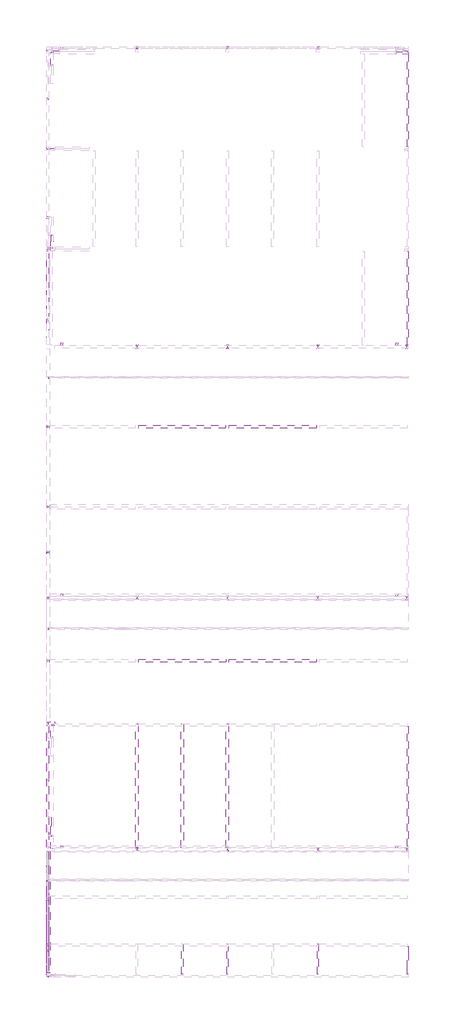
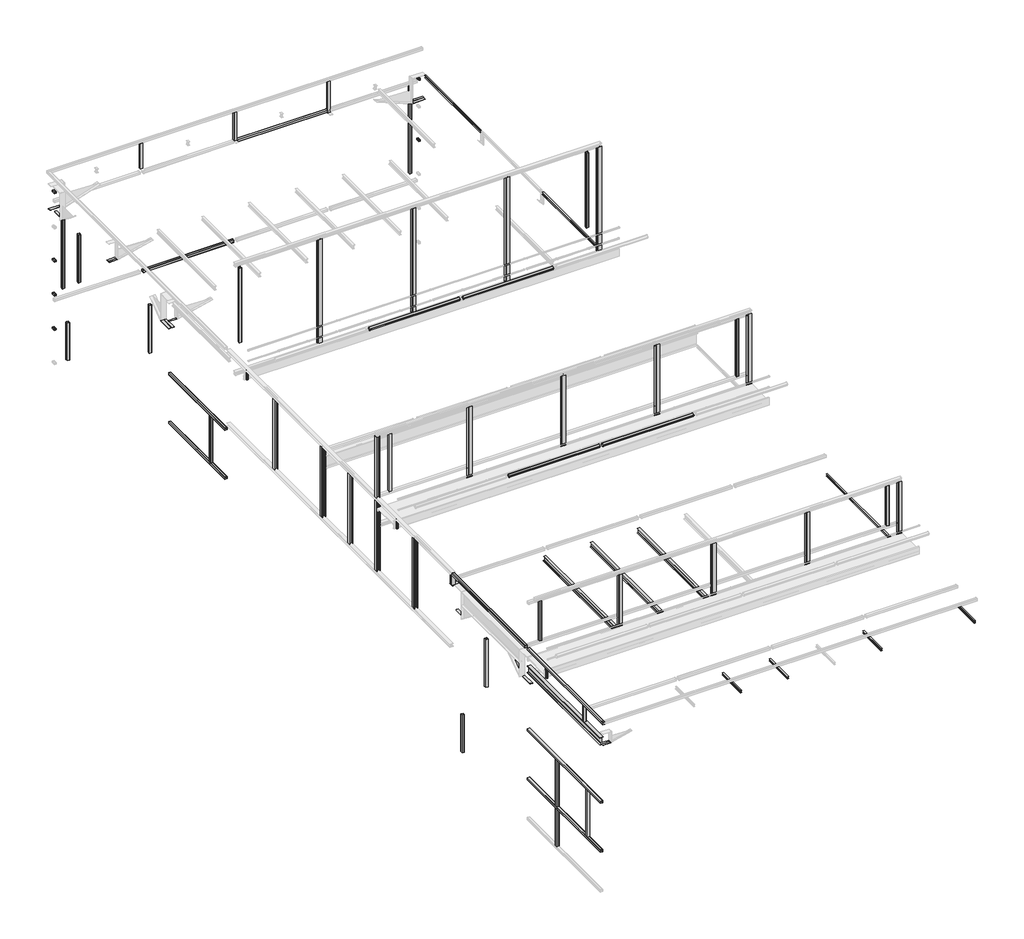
# One storey, part 1 of 3: 87 beams.
"""IFC4 building model written with IfcOpenShell, lengths in millimetres."""

from ifc_helpers import new_model, si_unit, origin, place, context, project, spatial, transform, mapped, element, save
from components import beam_d4a0480b, beam_3418ffec, beam_4ca940d6, beam_4316e584, beam_625af16d, beam_d5b4886c, beam_2f515bfb, beam_35b06b7e, beam_455ae0a9, beam_72802500, beam_2bc91c63, beam_9335a4f9, beam_03e1d0e3, beam_81fba2e1, beam_72d9c7e8, beam_f9063047, beam_884fce26, beam_35ba4fe3, beam_1d88e502, beam_e98fb987, beam_e52d324f, beam_d645ffe5, beam_266f3cda, beam_3a8f4c1c, beam_8f998c1d, beam_f69429bc, beam_959769e0, beam_624a8042, beam_9e77c314, beam_86b70a0b, beam_13a36071, beam_157ab3c3, beam_9efd9b80, beam_400ddd7d, beam_7f15aa8c, beam_58fbcf30, beam_7b8623fb, beam_5e7c5863, beam_99a33622, beam_9294c62f, beam_d07b3a57, lisse_155382_lisse_155382_e24d2321, lisse_176054_lisse_176054_c7658046, lisse_177552_lisse_177552_ac394449, lisse_181268_lisse_181268_04920fbb, lisse_185719_lisse_185719_032e5ac0, lisse_187629_lisse_187629_2d15d1a2, lisse_188213_lisse_188213_08098e7e, lisse_188797_lisse_188797_8d971648, lisse_194246_lisse_194246_3ff09583, lisse_194830_lisse_194830_e39f51cb, lisse_199592_lisse_199592_85ba7587, lisse_201344_lisse_201344_5269d4d3, lisse_202716_lisse_202716_2bcbaa4b, lisse_204192_lisse_204192_d049e345, lisse_207362_lisse_207362_ed247cf7, montant_145260_montant_145260_e38da05a, montant_167080_montant_167080_a244d57f, montant_170571_montant_170571_7c06ff10, montant_184744_montant_184744_b51f4d01, montant_196854_montant_196854_89ce9b73, montant_197438_montant_197438_63fdd01c, montant_209850_montant_209850_6c07ae54, montant_210740_montant_210740_54af5d84, montant_56904_montant_56904_6c301641, montant_57924_montant_57924_06522adf, montant_58230_montant_58230_599adf40, montant_58842_montant_58842_98824703, montant_62310_montant_62310_f073a8db, montant_montant_1f1f3942, poteau_12141_poteau_12141_6bde2392, poteau_12549_poteau_12549_c3c3fcf7, poteau_13790_poteau_13790_2f5418e6, poteau_14504_poteau_14504_7839164f, poteau_14997_poteau_14997_3867dd3c, poteau_15337_poteau_15337_1c64e726, poteau_16665_poteau_16665_6de4cea6, poteau_17311_poteau_17311_7367a8bd, poteau_17940_poteau_17940_64b331ff, poteau_18178_poteau_18178_8c32ee56, poteau_19302_poteau_19302_238f1522, poteau_55850_poteau_55850_18e45c55, poteau_59080_poteau_59080_f49cc1dc, poteau_59522_poteau_59522_3088a908, poteau_59658_poteau_59658_1c419a73, poteau_61256_poteau_61256_5b76d843, poutre_180684_poutre_180684_0acd7753

model = new_model("IFC4")

# Units and contexts
model_context = context("Model", 3, world=origin())
ifc_project = project(units=[si_unit("LENGTHUNIT", "METRE", prefix="MILLI")], contexts=[model_context])

# Site, building, storey
site = spatial("IfcSite", under=ifc_project)
building = spatial("IfcBuilding", under=site)
storey = spatial("IfcBuildingStorey", under=building, Name="__", Elevation=10.0)

# Beams
placement = place(None, origin())
beam_shape = beam_d4a0480b(model_context)
element("IfcBeam", 1, ObjectType="Potelet : Potelet", at=placement, inside=storey, context=model_context, shape_type="MappedRepresentation", body=[
    mapped(beam_shape, transform((0.0, 0.0, 0.0), x_axis=(1.0, 0.0, 0.0), y_axis=(0.0, 1.0, 0.0), z_axis=(0.0, 0.0, 1.0))),
])
beam_2_shape = beam_3418ffec(model_context)
element("IfcBeam", 2, ObjectType="Potelet 26076 : Potelet 26076", at=placement, inside=storey, context=model_context, shape_type="MappedRepresentation", body=[
    mapped(beam_2_shape, transform((0.0, 0.0, 0.0), x_axis=(1.0, 0.0, 0.0), y_axis=(0.0, 1.0, 0.0), z_axis=(0.0, 0.0, 1.0))),
])
beam_3_shape = beam_4ca940d6(model_context)
element("IfcBeam", 3, ObjectType="Potelet 29307 : Potelet 29307", at=placement, inside=storey, context=model_context, shape_type="MappedRepresentation", body=[
    mapped(beam_3_shape, transform((0.0, 0.0, 0.0), x_axis=(1.0, 0.0, 0.0), y_axis=(0.0, 1.0, 0.0), z_axis=(0.0, 0.0, 1.0))),
])
beam_4_shape = beam_4316e584(model_context)
element("IfcBeam", 4, ObjectType="Potelet 36343 : Potelet 36343", at=placement, inside=storey, context=model_context, shape_type="MappedRepresentation", body=[
    mapped(beam_4_shape, transform((0.0, 0.0, 0.0), x_axis=(1.0, 0.0, 0.0), y_axis=(0.0, 1.0, 0.0), z_axis=(0.0, 0.0, 1.0))),
])
beam_5_shape = beam_625af16d(model_context)
element("IfcBeam", 5, ObjectType="Potelet 44246 : Potelet 44246", at=placement, inside=storey, context=model_context, shape_type="MappedRepresentation", body=[
    mapped(beam_5_shape, transform((0.0, 0.0, 0.0), x_axis=(1.0, 0.0, 0.0), y_axis=(0.0, 1.0, 0.0), z_axis=(0.0, 0.0, 1.0))),
])
beam_6_shape = beam_d5b4886c(model_context)
element("IfcBeam", 6, ObjectType="Potelet 45714 : Potelet 45714", at=placement, inside=storey, context=model_context, shape_type="MappedRepresentation", body=[
    mapped(beam_6_shape, transform((0.0, 0.0, 0.0), x_axis=(1.0, 0.0, 0.0), y_axis=(0.0, 1.0, 0.0), z_axis=(0.0, 0.0, 1.0))),
])
beam_7_shape = beam_2f515bfb(model_context)
element("IfcBeam", 7, ObjectType="Potelet 49226 : Potelet 49226", at=placement, inside=storey, context=model_context, shape_type="MappedRepresentation", body=[
    mapped(beam_7_shape, transform((0.0, 0.0, 0.0), x_axis=(1.0, 0.0, 0.0), y_axis=(0.0, 1.0, 0.0), z_axis=(0.0, 0.0, 1.0))),
])
beam_8_shape = beam_35b06b7e(model_context)
element("IfcBeam", 8, ObjectType="Potelet 49532 : Potelet 49532", at=placement, inside=storey, context=model_context, shape_type="MappedRepresentation", body=[
    mapped(beam_8_shape, transform((0.0, 0.0, 0.0), x_axis=(1.0, 0.0, 0.0), y_axis=(0.0, 1.0, 0.0), z_axis=(0.0, 0.0, 1.0))),
])
beam_9_shape = beam_455ae0a9(model_context)
element("IfcBeam", 9, ObjectType="Potelet 49840 : Potelet 49840", at=placement, inside=storey, context=model_context, shape_type="MappedRepresentation", body=[
    mapped(beam_9_shape, transform((0.0, 0.0, 0.0), x_axis=(1.0, 0.0, 0.0), y_axis=(0.0, 1.0, 0.0), z_axis=(0.0, 0.0, 1.0))),
])
beam_10_shape = beam_72802500(model_context)
element("IfcBeam", 10, ObjectType="Potelet 51002 : Potelet 51002", at=placement, inside=storey, context=model_context, shape_type="MappedRepresentation", body=[
    mapped(beam_10_shape, transform((0.0, 0.0, 0.0), x_axis=(1.0, 0.0, 0.0), y_axis=(0.0, 1.0, 0.0), z_axis=(0.0, 0.0, 1.0))),
])
beam_11_shape = beam_2bc91c63(model_context)
element("IfcBeam", 11, ObjectType="Potelet 52470 : Potelet 52470", at=placement, inside=storey, context=model_context, shape_type="MappedRepresentation", body=[
    mapped(beam_11_shape, transform((0.0, 0.0, 0.0), x_axis=(1.0, 0.0, 0.0), y_axis=(0.0, 1.0, 0.0), z_axis=(0.0, 0.0, 1.0))),
])
beam_12_shape = beam_9335a4f9(model_context)
element("IfcBeam", 12, ObjectType="Potelet 53632 : Potelet 53632", at=placement, inside=storey, context=model_context, shape_type="MappedRepresentation", body=[
    mapped(beam_12_shape, transform((0.0, 0.0, 0.0), x_axis=(1.0, 0.0, 0.0), y_axis=(0.0, 1.0, 0.0), z_axis=(0.0, 0.0, 1.0))),
])
beam_13_shape = beam_03e1d0e3(model_context)
element("IfcBeam", 13, ObjectType="Membrure Haute : Membrure Haute", at=placement, inside=storey, context=model_context, shape_type="MappedRepresentation", body=[
    mapped(beam_13_shape, transform((0.0, 0.0, 0.0), x_axis=(1.0, 0.0, 0.0), y_axis=(0.0, 1.0, 0.0), z_axis=(0.0, 0.0, 1.0))),
])
beam_14_shape = beam_81fba2e1(model_context)
element("IfcBeam", 14, ObjectType=" 87542 :  87542", at=placement, inside=storey, context=model_context, shape_type="MappedRepresentation", body=[
    mapped(beam_14_shape, transform((0.0, 0.0, 0.0), x_axis=(1.0, 0.0, 0.0), y_axis=(0.0, 1.0, 0.0), z_axis=(0.0, 0.0, 1.0))),
])
beam_15_shape = beam_72d9c7e8(model_context)
element("IfcBeam", 15, ObjectType=" 89299 :  89299", at=placement, inside=storey, context=model_context, shape_type="MappedRepresentation", body=[
    mapped(beam_15_shape, transform((0.0, 0.0, 0.0), x_axis=(1.0, 0.0, 0.0), y_axis=(0.0, 1.0, 0.0), z_axis=(0.0, 0.0, 1.0))),
])
beam_16_shape = beam_f9063047(model_context)
element("IfcBeam", 16, ObjectType=" 98838 :  98838", at=placement, inside=storey, context=model_context, shape_type="MappedRepresentation", body=[
    mapped(beam_16_shape, transform((0.0, 0.0, 0.0), x_axis=(1.0, 0.0, 0.0), y_axis=(0.0, 1.0, 0.0), z_axis=(0.0, 0.0, 1.0))),
])
beam_17_shape = beam_884fce26(model_context)
element("IfcBeam", 17, ObjectType="Lisse acrot?re : Lisse acrot?re", at=placement, inside=storey, context=model_context, shape_type="MappedRepresentation", body=[
    mapped(beam_17_shape, transform((0.0, 0.0, 0.0), x_axis=(1.0, 0.0, 0.0), y_axis=(0.0, 1.0, 0.0), z_axis=(0.0, 0.0, 1.0))),
])
beam_18_shape = beam_35ba4fe3(model_context)
element("IfcBeam", 18, ObjectType="Panne 179386 : Panne 179386", at=placement, inside=storey, context=model_context, shape_type="MappedRepresentation", body=[
    mapped(beam_18_shape, transform((0.0, 0.0, 0.0), x_axis=(1.0, 0.0, 0.0), y_axis=(0.0, 1.0, 0.0), z_axis=(0.0, 0.0, 1.0))),
])
beam_19_shape = beam_1d88e502(model_context)
element("IfcBeam", 19, ObjectType=" 179970 :  179970", at=placement, inside=storey, context=model_context, shape_type="MappedRepresentation", body=[
    mapped(beam_19_shape, transform((0.0, 0.0, 0.0), x_axis=(1.0, 0.0, 0.0), y_axis=(0.0, 1.0, 0.0), z_axis=(0.0, 0.0, 1.0))),
])
beam_20_shape = beam_e98fb987(model_context)
element("IfcBeam", 20, ObjectType="Murailli?re 180174 : Murailli?re 180174", at=placement, inside=storey, context=model_context, shape_type="MappedRepresentation", body=[
    mapped(beam_20_shape, transform((0.0, 0.0, 0.0), x_axis=(1.0, 0.0, 0.0), y_axis=(0.0, 1.0, 0.0), z_axis=(0.0, 0.0, 1.0))),
])
beam_21_shape = beam_e52d324f(model_context)
element("IfcBeam", 21, ObjectType=" 181370 :  181370", at=placement, inside=storey, context=model_context, shape_type="MappedRepresentation", body=[
    mapped(beam_21_shape, transform((0.0, 0.0, 0.0), x_axis=(1.0, 0.0, 0.0), y_axis=(0.0, 1.0, 0.0), z_axis=(0.0, 0.0, 1.0))),
])
beam_22_shape = beam_d645ffe5(model_context)
element("IfcBeam", 22, ObjectType="Murailli?re 182692 : Murailli?re 182692", at=placement, inside=storey, context=model_context, shape_type="MappedRepresentation", body=[
    mapped(beam_22_shape, transform((0.0, 0.0, 0.0), x_axis=(1.0, 0.0, 0.0), y_axis=(0.0, 1.0, 0.0), z_axis=(0.0, 0.0, 1.0))),
])
beam_23_shape = beam_266f3cda(model_context)
element("IfcBeam", 23, ObjectType="Panne 182998 : Panne 182998", at=placement, inside=storey, context=model_context, shape_type="MappedRepresentation", body=[
    mapped(beam_23_shape, transform((0.0, 0.0, 0.0), x_axis=(1.0, 0.0, 0.0), y_axis=(0.0, 1.0, 0.0), z_axis=(0.0, 0.0, 1.0))),
])
beam_24_shape = beam_3a8f4c1c(model_context)
element("IfcBeam", 24, ObjectType="Buton 184160 : Buton 184160", at=placement, inside=storey, context=model_context, shape_type="MappedRepresentation", body=[
    mapped(beam_24_shape, transform((0.0, 0.0, 0.0), x_axis=(1.0, 0.0, 0.0), y_axis=(0.0, 1.0, 0.0), z_axis=(0.0, 0.0, 1.0))),
])
beam_25_shape = beam_8f998c1d(model_context)
element("IfcBeam", 25, ObjectType="Panne 185050 : Panne 185050", at=placement, inside=storey, context=model_context, shape_type="MappedRepresentation", body=[
    mapped(beam_25_shape, transform((0.0, 0.0, 0.0), x_axis=(1.0, 0.0, 0.0), y_axis=(0.0, 1.0, 0.0), z_axis=(0.0, 0.0, 1.0))),
])
beam_26_shape = beam_f69429bc(model_context)
element("IfcBeam", 26, ObjectType="Panne 186535 : Panne 186535", at=placement, inside=storey, context=model_context, shape_type="MappedRepresentation", body=[
    mapped(beam_26_shape, transform((0.0, 0.0, 0.0), x_axis=(1.0, 0.0, 0.0), y_axis=(0.0, 1.0, 0.0), z_axis=(0.0, 0.0, 1.0))),
])
beam_27_shape = beam_959769e0(model_context)
element("IfcBeam", 27, ObjectType=" 189381 :  189381", at=placement, inside=storey, context=model_context, shape_type="MappedRepresentation", body=[
    mapped(beam_27_shape, transform((0.0, 0.0, 0.0), x_axis=(1.0, 0.0, 0.0), y_axis=(0.0, 1.0, 0.0), z_axis=(0.0, 0.0, 1.0))),
])
beam_28_shape = beam_624a8042(model_context)
element("IfcBeam", 28, ObjectType="Lisse acrot?re 189965 : Lisse acrot?re 189965", at=placement, inside=storey, context=model_context, shape_type="MappedRepresentation", body=[
    mapped(beam_28_shape, transform((0.0, 0.0, 0.0), x_axis=(1.0, 0.0, 0.0), y_axis=(0.0, 1.0, 0.0), z_axis=(0.0, 0.0, 1.0))),
])
beam_29_shape = beam_9e77c314(model_context)
element("IfcBeam", 29, ObjectType="Murailli?re 190169 : Murailli?re 190169", at=placement, inside=storey, context=model_context, shape_type="MappedRepresentation", body=[
    mapped(beam_29_shape, transform((0.0, 0.0, 0.0), x_axis=(1.0, 0.0, 0.0), y_axis=(0.0, 1.0, 0.0), z_axis=(0.0, 0.0, 1.0))),
])
beam_30_shape = beam_86b70a0b(model_context)
element("IfcBeam", 30, ObjectType="Panne 191593 : Panne 191593", at=placement, inside=storey, context=model_context, shape_type="MappedRepresentation", body=[
    mapped(beam_30_shape, transform((0.0, 0.0, 0.0), x_axis=(1.0, 0.0, 0.0), y_axis=(0.0, 1.0, 0.0), z_axis=(0.0, 0.0, 1.0))),
])
beam_31_shape = beam_13a36071(model_context)
element("IfcBeam", 31, ObjectType="Lisse acrot?re 192500 : Lisse acrot?re 192500", at=placement, inside=storey, context=model_context, shape_type="MappedRepresentation", body=[
    mapped(beam_31_shape, transform((0.0, 0.0, 0.0), x_axis=(1.0, 0.0, 0.0), y_axis=(0.0, 1.0, 0.0), z_axis=(0.0, 0.0, 1.0))),
])
beam_32_shape = beam_157ab3c3(model_context)
element("IfcBeam", 32, ObjectType="Buton 193356 : Buton 193356", at=placement, inside=storey, context=model_context, shape_type="MappedRepresentation", body=[
    mapped(beam_32_shape, transform((0.0, 0.0, 0.0), x_axis=(1.0, 0.0, 0.0), y_axis=(0.0, 1.0, 0.0), z_axis=(0.0, 0.0, 1.0))),
])
beam_33_shape = beam_9efd9b80(model_context)
element("IfcBeam", 33, ObjectType="Buton 195686 : Buton 195686", at=placement, inside=storey, context=model_context, shape_type="MappedRepresentation", body=[
    mapped(beam_33_shape, transform((0.0, 0.0, 0.0), x_axis=(1.0, 0.0, 0.0), y_axis=(0.0, 1.0, 0.0), z_axis=(0.0, 0.0, 1.0))),
])
beam_34_shape = beam_400ddd7d(model_context)
element("IfcBeam", 34, ObjectType=" 198413 :  198413", at=placement, inside=storey, context=model_context, shape_type="MappedRepresentation", body=[
    mapped(beam_34_shape, transform((0.0, 0.0, 0.0), x_axis=(1.0, 0.0, 0.0), y_axis=(0.0, 1.0, 0.0), z_axis=(0.0, 0.0, 1.0))),
])
beam_35_shape = beam_7f15aa8c(model_context)
element("IfcBeam", 35, ObjectType=" 199008 :  199008", at=placement, inside=storey, context=model_context, shape_type="MappedRepresentation", body=[
    mapped(beam_35_shape, transform((0.0, 0.0, 0.0), x_axis=(1.0, 0.0, 0.0), y_axis=(0.0, 1.0, 0.0), z_axis=(0.0, 0.0, 1.0))),
])
beam_36_shape = beam_58fbcf30(model_context)
element("IfcBeam", 36, ObjectType=" 200760 :  200760", at=placement, inside=storey, context=model_context, shape_type="MappedRepresentation", body=[
    mapped(beam_36_shape, transform((0.0, 0.0, 0.0), x_axis=(1.0, 0.0, 0.0), y_axis=(0.0, 1.0, 0.0), z_axis=(0.0, 0.0, 1.0))),
])
beam_37_shape = beam_7b8623fb(model_context)
element("IfcBeam", 37, ObjectType=" 202132 :  202132", at=placement, inside=storey, context=model_context, shape_type="MappedRepresentation", body=[
    mapped(beam_37_shape, transform((0.0, 0.0, 0.0), x_axis=(1.0, 0.0, 0.0), y_axis=(0.0, 1.0, 0.0), z_axis=(0.0, 0.0, 1.0))),
])
beam_38_shape = beam_5e7c5863(model_context)
element("IfcBeam", 38, ObjectType="Murailli?re 205514 : Murailli?re 205514", at=placement, inside=storey, context=model_context, shape_type="MappedRepresentation", body=[
    mapped(beam_38_shape, transform((0.0, 0.0, 0.0), x_axis=(1.0, 0.0, 0.0), y_axis=(0.0, 1.0, 0.0), z_axis=(0.0, 0.0, 1.0))),
])
beam_39_shape = beam_99a33622(model_context)
element("IfcBeam", 39, ObjectType="Buton 206574 : Buton 206574", at=placement, inside=storey, context=model_context, shape_type="MappedRepresentation", body=[
    mapped(beam_39_shape, transform((0.0, 0.0, 0.0), x_axis=(1.0, 0.0, 0.0), y_axis=(0.0, 1.0, 0.0), z_axis=(0.0, 0.0, 1.0))),
])
beam_40_shape = beam_9294c62f(model_context)
element("IfcBeam", 40, ObjectType="Panne 210156 : Panne 210156", at=placement, inside=storey, context=model_context, shape_type="MappedRepresentation", body=[
    mapped(beam_40_shape, transform((0.0, 0.0, 0.0), x_axis=(1.0, 0.0, 0.0), y_axis=(0.0, 1.0, 0.0), z_axis=(0.0, 0.0, 1.0))),
])
beam_41_shape = beam_d07b3a57(model_context)
element("IfcBeam", 41, ObjectType=" 211324 :  211324", at=placement, inside=storey, context=model_context, shape_type="MappedRepresentation", body=[
    mapped(beam_41_shape, transform((0.0, 0.0, 0.0), x_axis=(1.0, 0.0, 0.0), y_axis=(0.0, 1.0, 0.0), z_axis=(0.0, 0.0, 1.0))),
])
lisse_155382_lisse_155382_shape = lisse_155382_lisse_155382_e24d2321(model_context)
element("IfcBeam", 42, ObjectType="Lisse 155382 : Lisse 155382", at=placement, inside=storey, context=model_context, shape_type="MappedRepresentation", body=[
    mapped(lisse_155382_lisse_155382_shape, transform((0.0, 0.0, 0.0), x_axis=(1.0, 0.0, 0.0), y_axis=(0.0, 1.0, 0.0), z_axis=(0.0, 0.0, 1.0))),
])
lisse_176054_lisse_176054_shape = lisse_176054_lisse_176054_c7658046(model_context)
element("IfcBeam", 43, ObjectType="Lisse 176054 : Lisse 176054", at=placement, inside=storey, context=model_context, shape_type="MappedRepresentation", body=[
    mapped(lisse_176054_lisse_176054_shape, transform((0.0, 0.0, 0.0), x_axis=(1.0, 0.0, 0.0), y_axis=(0.0, 1.0, 0.0), z_axis=(0.0, 0.0, 1.0))),
])
lisse_177552_lisse_177552_shape = lisse_177552_lisse_177552_ac394449(model_context)
element("IfcBeam", 44, ObjectType="Lisse 177552 : Lisse 177552", at=placement, inside=storey, context=model_context, shape_type="MappedRepresentation", body=[
    mapped(lisse_177552_lisse_177552_shape, transform((0.0, 0.0, 0.0), x_axis=(1.0, 0.0, 0.0), y_axis=(0.0, 1.0, 0.0), z_axis=(0.0, 0.0, 1.0))),
])
lisse_181268_lisse_181268_shape = lisse_181268_lisse_181268_04920fbb(model_context)
element("IfcBeam", 45, ObjectType="Lisse 181268 : Lisse 181268", at=placement, inside=storey, context=model_context, shape_type="MappedRepresentation", body=[
    mapped(lisse_181268_lisse_181268_shape, transform((0.0, 0.0, -450.0), x_axis=(1.0, 0.0, 0.0), y_axis=(0.0, 1.0, 0.0), z_axis=(0.0, 0.0, 1.0))),
])
lisse_185719_lisse_185719_shape = lisse_185719_lisse_185719_032e5ac0(model_context)
element("IfcBeam", 46, ObjectType="Lisse 185719 : Lisse 185719", at=placement, inside=storey, context=model_context, shape_type="MappedRepresentation", body=[
    mapped(lisse_185719_lisse_185719_shape, transform((0.0, 0.0, 0.0), x_axis=(1.0, 0.0, 0.0), y_axis=(0.0, 1.0, 0.0), z_axis=(0.0, 0.0, 1.0))),
])
lisse_187629_lisse_187629_shape = lisse_187629_lisse_187629_2d15d1a2(model_context)
element("IfcBeam", 47, ObjectType="Lisse 187629 : Lisse 187629", at=placement, inside=storey, context=model_context, shape_type="MappedRepresentation", body=[
    mapped(lisse_187629_lisse_187629_shape, transform((0.0, 0.0, 0.0), x_axis=(1.0, 0.0, 0.0), y_axis=(0.0, 1.0, 0.0), z_axis=(0.0, 0.0, 1.0))),
])
lisse_188213_lisse_188213_shape = lisse_188213_lisse_188213_08098e7e(model_context)
element("IfcBeam", 48, ObjectType="Lisse 188213 : Lisse 188213", at=placement, inside=storey, context=model_context, shape_type="MappedRepresentation", body=[
    mapped(lisse_188213_lisse_188213_shape, transform((0.0, 0.0, 0.0), x_axis=(1.0, 0.0, 0.0), y_axis=(0.0, 1.0, 0.0), z_axis=(0.0, 0.0, 1.0))),
])
lisse_188797_lisse_188797_shape = lisse_188797_lisse_188797_8d971648(model_context)
element("IfcBeam", 49, ObjectType="Lisse 188797 : Lisse 188797", at=placement, inside=storey, context=model_context, shape_type="MappedRepresentation", body=[
    mapped(lisse_188797_lisse_188797_shape, transform((0.0, 0.0, -450.0), x_axis=(1.0, 0.0, 0.0), y_axis=(0.0, 1.0, 0.0), z_axis=(0.0, 0.0, 1.0))),
])
lisse_194246_lisse_194246_shape = lisse_194246_lisse_194246_3ff09583(model_context)
element("IfcBeam", 50, ObjectType="Lisse 194246 : Lisse 194246", at=placement, inside=storey, context=model_context, shape_type="MappedRepresentation", body=[
    mapped(lisse_194246_lisse_194246_shape, transform((0.0, 0.0, 0.0), x_axis=(1.0, 0.0, 0.0), y_axis=(0.0, 1.0, 0.0), z_axis=(0.0, 0.0, 1.0))),
])
lisse_194830_lisse_194830_shape = lisse_194830_lisse_194830_e39f51cb(model_context)
element("IfcBeam", 51, ObjectType="Lisse 194830 : Lisse 194830", at=placement, inside=storey, context=model_context, shape_type="MappedRepresentation", body=[
    mapped(lisse_194830_lisse_194830_shape, transform((0.0, 0.0, 0.0), x_axis=(1.0, 0.0, 0.0), y_axis=(0.0, 1.0, 0.0), z_axis=(0.0, 0.0, 1.0))),
])
lisse_199592_lisse_199592_shape = lisse_199592_lisse_199592_85ba7587(model_context)
element("IfcBeam", 52, ObjectType="Lisse 199592 : Lisse 199592", at=placement, inside=storey, context=model_context, shape_type="MappedRepresentation", body=[
    mapped(lisse_199592_lisse_199592_shape, transform((0.0, 0.0, 0.0), x_axis=(1.0, 0.0, 0.0), y_axis=(0.0, 1.0, 0.0), z_axis=(0.0, 0.0, 1.0))),
])
lisse_201344_lisse_201344_shape = lisse_201344_lisse_201344_5269d4d3(model_context)
element("IfcBeam", 53, ObjectType="Lisse 201344 : Lisse 201344", at=placement, inside=storey, context=model_context, shape_type="MappedRepresentation", body=[
    mapped(lisse_201344_lisse_201344_shape, transform((0.0, 0.0, 0.0), x_axis=(1.0, 0.0, 0.0), y_axis=(0.0, 1.0, 0.0), z_axis=(0.0, 0.0, 1.0))),
])
lisse_202716_lisse_202716_shape = lisse_202716_lisse_202716_2bcbaa4b(model_context)
element("IfcBeam", 54, ObjectType="Lisse 202716 : Lisse 202716", at=placement, inside=storey, context=model_context, shape_type="MappedRepresentation", body=[
    mapped(lisse_202716_lisse_202716_shape, transform((0.0, 0.0, -350.0), x_axis=(1.0, 0.0, 0.0), y_axis=(0.0, 1.0, 0.0), z_axis=(0.0, 0.0, 1.0))),
])
lisse_204192_lisse_204192_shape = lisse_204192_lisse_204192_d049e345(model_context)
element("IfcBeam", 55, ObjectType="Lisse 204192 : Lisse 204192", at=placement, inside=storey, context=model_context, shape_type="MappedRepresentation", body=[
    mapped(lisse_204192_lisse_204192_shape, transform((0.0, 0.0, 0.0), x_axis=(1.0, 0.0, 0.0), y_axis=(0.0, 1.0, 0.0), z_axis=(0.0, 0.0, 1.0))),
])
lisse_207362_lisse_207362_shape = lisse_207362_lisse_207362_ed247cf7(model_context)
element("IfcBeam", 56, ObjectType="Lisse 207362 : Lisse 207362", at=placement, inside=storey, context=model_context, shape_type="MappedRepresentation", body=[
    mapped(lisse_207362_lisse_207362_shape, transform((0.0, 0.0, 0.0), x_axis=(1.0, 0.0, 0.0), y_axis=(0.0, 1.0, 0.0), z_axis=(0.0, 0.0, 1.0))),
])
montant_145260_montant_145260_shape = montant_145260_montant_145260_e38da05a(model_context)
element("IfcBeam", 57, ObjectType="Montant 145260 : Montant 145260", at=placement, inside=storey, context=model_context, shape_type="MappedRepresentation", body=[
    mapped(montant_145260_montant_145260_shape, transform((0.0, 0.0, 0.0), x_axis=(1.0, 0.0, 0.0), y_axis=(0.0, 1.0, 0.0), z_axis=(0.0, 0.0, 1.0))),
])
montant_167080_montant_167080_shape = montant_167080_montant_167080_a244d57f(model_context)
element("IfcBeam", 58, ObjectType="Montant 167080 : Montant 167080", at=placement, inside=storey, context=model_context, shape_type="MappedRepresentation", body=[
    mapped(montant_167080_montant_167080_shape, transform((0.0, 0.0, 0.0), x_axis=(1.0, 0.0, 0.0), y_axis=(0.0, 1.0, 0.0), z_axis=(0.0, 0.0, 1.0))),
])
montant_170571_montant_170571_shape = montant_170571_montant_170571_7c06ff10(model_context)
element("IfcBeam", 59, ObjectType="Montant 170571 : Montant 170571", at=placement, inside=storey, context=model_context, shape_type="MappedRepresentation", body=[
    mapped(montant_170571_montant_170571_shape, transform((0.0, 0.0, 0.0), x_axis=(1.0, 0.0, 0.0), y_axis=(0.0, 1.0, 0.0), z_axis=(0.0, 0.0, 1.0))),
])
montant_184744_montant_184744_shape = montant_184744_montant_184744_b51f4d01(model_context)
element("IfcBeam", 60, ObjectType="Montant 184744 : Montant 184744", at=placement, inside=storey, context=model_context, shape_type="MappedRepresentation", body=[
    mapped(montant_184744_montant_184744_shape, transform((0.0, 0.0, 0.0), x_axis=(1.0, 0.0, 0.0), y_axis=(0.0, 1.0, 0.0), z_axis=(0.0, 0.0, 1.0))),
])
montant_196854_montant_196854_shape = montant_196854_montant_196854_89ce9b73(model_context)
element("IfcBeam", 61, ObjectType="Montant 196854 : Montant 196854", at=placement, inside=storey, context=model_context, shape_type="MappedRepresentation", body=[
    mapped(montant_196854_montant_196854_shape, transform((0.0, 0.0, 0.0), x_axis=(1.0, 0.0, 0.0), y_axis=(0.0, 1.0, 0.0), z_axis=(0.0, 0.0, 1.0))),
])
montant_197438_montant_197438_shape = montant_197438_montant_197438_63fdd01c(model_context)
element("IfcBeam", 62, ObjectType="Montant 197438 : Montant 197438", at=placement, inside=storey, context=model_context, shape_type="MappedRepresentation", body=[
    mapped(montant_197438_montant_197438_shape, transform((0.0, 0.0, 0.0), x_axis=(1.0, 0.0, 0.0), y_axis=(0.0, 1.0, 0.0), z_axis=(0.0, 0.0, 1.0))),
])
montant_209850_montant_209850_shape = montant_209850_montant_209850_6c07ae54(model_context)
element("IfcBeam", 63, ObjectType="Montant 209850 : Montant 209850", at=placement, inside=storey, context=model_context, shape_type="MappedRepresentation", body=[
    mapped(montant_209850_montant_209850_shape, transform((0.0, 0.0, 0.0), x_axis=(1.0, 0.0, 0.0), y_axis=(0.0, 1.0, 0.0), z_axis=(0.0, 0.0, 1.0))),
])
montant_210740_montant_210740_shape = montant_210740_montant_210740_54af5d84(model_context)
element("IfcBeam", 64, ObjectType="Montant 210740 : Montant 210740", at=placement, inside=storey, context=model_context, shape_type="MappedRepresentation", body=[
    mapped(montant_210740_montant_210740_shape, transform((0.0, 0.0, 0.0), x_axis=(1.0, 0.0, 0.0), y_axis=(0.0, 1.0, 0.0), z_axis=(0.0, 0.0, 1.0))),
])
montant_56904_montant_56904_shape = montant_56904_montant_56904_6c301641(model_context)
element("IfcBeam", 65, ObjectType="Montant 56904 : Montant 56904", at=placement, inside=storey, context=model_context, shape_type="MappedRepresentation", body=[
    mapped(montant_56904_montant_56904_shape, transform((0.0, 0.0, 0.0), x_axis=(1.0, 0.0, 0.0), y_axis=(0.0, 1.0, 0.0), z_axis=(0.0, 0.0, 1.0))),
])
montant_57924_montant_57924_shape = montant_57924_montant_57924_06522adf(model_context)
element("IfcBeam", 66, ObjectType="Montant 57924 : Montant 57924", at=placement, inside=storey, context=model_context, shape_type="MappedRepresentation", body=[
    mapped(montant_57924_montant_57924_shape, transform((0.0, 0.0, 0.0), x_axis=(1.0, 0.0, 0.0), y_axis=(0.0, 1.0, 0.0), z_axis=(0.0, 0.0, 1.0))),
])
montant_58230_montant_58230_shape = montant_58230_montant_58230_599adf40(model_context)
element("IfcBeam", 67, ObjectType="Montant 58230 : Montant 58230", at=placement, inside=storey, context=model_context, shape_type="MappedRepresentation", body=[
    mapped(montant_58230_montant_58230_shape, transform((0.0, 0.0, 0.0), x_axis=(1.0, 0.0, 0.0), y_axis=(0.0, 1.0, 0.0), z_axis=(0.0, 0.0, 1.0))),
])
montant_58842_montant_58842_shape = montant_58842_montant_58842_98824703(model_context)
element("IfcBeam", 68, ObjectType="Montant 58842 : Montant 58842", at=placement, inside=storey, context=model_context, shape_type="MappedRepresentation", body=[
    mapped(montant_58842_montant_58842_shape, transform((0.0, 0.0, 0.0), x_axis=(1.0, 0.0, 0.0), y_axis=(0.0, 1.0, 0.0), z_axis=(0.0, 0.0, 1.0))),
])
montant_62310_montant_62310_shape = montant_62310_montant_62310_f073a8db(model_context)
element("IfcBeam", 69, ObjectType="Montant 62310 : Montant 62310", at=placement, inside=storey, context=model_context, shape_type="MappedRepresentation", body=[
    mapped(montant_62310_montant_62310_shape, transform((0.0, 0.0, 0.0), x_axis=(1.0, 0.0, 0.0), y_axis=(0.0, 1.0, 0.0), z_axis=(0.0, 0.0, 1.0))),
])
montant_montant_shape = montant_montant_1f1f3942(model_context)
element("IfcBeam", 70, ObjectType="Montant : Montant", at=placement, inside=storey, context=model_context, shape_type="MappedRepresentation", body=[
    mapped(montant_montant_shape, transform((0.0, 0.0, 0.0), x_axis=(1.0, 0.0, 0.0), y_axis=(0.0, 1.0, 0.0), z_axis=(0.0, 0.0, 1.0))),
])
poteau_12141_poteau_12141_shape = poteau_12141_poteau_12141_6bde2392(model_context)
element("IfcBeam", 71, ObjectType="Poteau 12141 : Poteau 12141", at=placement, inside=storey, context=model_context, shape_type="MappedRepresentation", body=[
    mapped(poteau_12141_poteau_12141_shape, transform((0.0, 0.0, 0.0), x_axis=(1.0, 0.0, 0.0), y_axis=(0.0, 1.0, 0.0), z_axis=(0.0, 0.0, 1.0))),
])
poteau_12549_poteau_12549_shape = poteau_12549_poteau_12549_c3c3fcf7(model_context)
element("IfcBeam", 72, ObjectType="Poteau 12549 : Poteau 12549", at=placement, inside=storey, context=model_context, shape_type="MappedRepresentation", body=[
    mapped(poteau_12549_poteau_12549_shape, transform((0.0, 0.0, 0.0), x_axis=(1.0, 0.0, 0.0), y_axis=(0.0, 1.0, 0.0), z_axis=(0.0, 0.0, 1.0))),
])
poteau_13790_poteau_13790_shape = poteau_13790_poteau_13790_2f5418e6(model_context)
element("IfcBeam", 73, ObjectType="Poteau 13790 : Poteau 13790", at=placement, inside=storey, context=model_context, shape_type="MappedRepresentation", body=[
    mapped(poteau_13790_poteau_13790_shape, transform((0.0, 0.0, 0.0), x_axis=(1.0, 0.0, 0.0), y_axis=(0.0, 1.0, 0.0), z_axis=(0.0, 0.0, 1.0))),
])
poteau_14504_poteau_14504_shape = poteau_14504_poteau_14504_7839164f(model_context)
element("IfcBeam", 74, ObjectType="Poteau 14504 : Poteau 14504", at=placement, inside=storey, context=model_context, shape_type="MappedRepresentation", body=[
    mapped(poteau_14504_poteau_14504_shape, transform((0.0, 0.0, 0.0), x_axis=(1.0, 0.0, 0.0), y_axis=(0.0, 1.0, 0.0), z_axis=(0.0, 0.0, 1.0))),
])
poteau_14997_poteau_14997_shape = poteau_14997_poteau_14997_3867dd3c(model_context)
element("IfcBeam", 75, ObjectType="Poteau 14997 : Poteau 14997", at=placement, inside=storey, context=model_context, shape_type="MappedRepresentation", body=[
    mapped(poteau_14997_poteau_14997_shape, transform((0.0, 0.0, 0.0), x_axis=(1.0, 0.0, 0.0), y_axis=(0.0, 1.0, 0.0), z_axis=(0.0, 0.0, 1.0))),
])
poteau_15337_poteau_15337_shape = poteau_15337_poteau_15337_1c64e726(model_context)
element("IfcBeam", 76, ObjectType="Poteau 15337 : Poteau 15337", at=placement, inside=storey, context=model_context, shape_type="MappedRepresentation", body=[
    mapped(poteau_15337_poteau_15337_shape, transform((0.0, 0.0, 0.0), x_axis=(1.0, 0.0, 0.0), y_axis=(0.0, 1.0, 0.0), z_axis=(0.0, 0.0, 1.0))),
])
poteau_16665_poteau_16665_shape = poteau_16665_poteau_16665_6de4cea6(model_context)
element("IfcBeam", 77, ObjectType="Poteau 16665 : Poteau 16665", at=placement, inside=storey, context=model_context, shape_type="MappedRepresentation", body=[
    mapped(poteau_16665_poteau_16665_shape, transform((0.0, 0.0, 0.0), x_axis=(1.0, 0.0, 0.0), y_axis=(0.0, 1.0, 0.0), z_axis=(0.0, 0.0, 1.0))),
])
poteau_17311_poteau_17311_shape = poteau_17311_poteau_17311_7367a8bd(model_context)
element("IfcBeam", 78, ObjectType="Poteau 17311 : Poteau 17311", at=placement, inside=storey, context=model_context, shape_type="MappedRepresentation", body=[
    mapped(poteau_17311_poteau_17311_shape, transform((0.0, 0.0, 0.0), x_axis=(1.0, 0.0, 0.0), y_axis=(0.0, 1.0, 0.0), z_axis=(0.0, 0.0, 1.0))),
])
poteau_17940_poteau_17940_shape = poteau_17940_poteau_17940_64b331ff(model_context)
element("IfcBeam", 79, ObjectType="Poteau 17940 : Poteau 17940", at=placement, inside=storey, context=model_context, shape_type="MappedRepresentation", body=[
    mapped(poteau_17940_poteau_17940_shape, transform((0.0, 0.0, 0.0), x_axis=(1.0, 0.0, 0.0), y_axis=(0.0, 1.0, 0.0), z_axis=(0.0, 0.0, 1.0))),
])
poteau_18178_poteau_18178_shape = poteau_18178_poteau_18178_8c32ee56(model_context)
element("IfcBeam", 80, ObjectType="Poteau 18178 : Poteau 18178", at=placement, inside=storey, context=model_context, shape_type="MappedRepresentation", body=[
    mapped(poteau_18178_poteau_18178_shape, transform((0.0, 0.0, 0.0), x_axis=(1.0, 0.0, 0.0), y_axis=(0.0, 1.0, 0.0), z_axis=(0.0, 0.0, 1.0))),
])
poteau_19302_poteau_19302_shape = poteau_19302_poteau_19302_238f1522(model_context)
element("IfcBeam", 81, ObjectType="Poteau 19302 : Poteau 19302", at=placement, inside=storey, context=model_context, shape_type="MappedRepresentation", body=[
    mapped(poteau_19302_poteau_19302_shape, transform((0.0, 0.0, 0.0), x_axis=(1.0, 0.0, 0.0), y_axis=(0.0, 1.0, 0.0), z_axis=(0.0, 0.0, 1.0))),
])
poteau_55850_poteau_55850_shape = poteau_55850_poteau_55850_18e45c55(model_context)
element("IfcBeam", 82, ObjectType="Poteau 55850 : Poteau 55850", at=placement, inside=storey, context=model_context, shape_type="MappedRepresentation", body=[
    mapped(poteau_55850_poteau_55850_shape, transform((0.0, 0.0, 0.0), x_axis=(1.0, 0.0, 0.0), y_axis=(0.0, 1.0, 0.0), z_axis=(0.0, 0.0, 1.0))),
])
poteau_59080_poteau_59080_shape = poteau_59080_poteau_59080_f49cc1dc(model_context)
element("IfcBeam", 83, ObjectType="Poteau 59080 : Poteau 59080", at=placement, inside=storey, context=model_context, shape_type="MappedRepresentation", body=[
    mapped(poteau_59080_poteau_59080_shape, transform((0.0, 0.0, 0.0), x_axis=(1.0, 0.0, 0.0), y_axis=(0.0, 1.0, 0.0), z_axis=(0.0, 0.0, 1.0))),
])
poteau_59522_poteau_59522_shape = poteau_59522_poteau_59522_3088a908(model_context)
element("IfcBeam", 84, ObjectType="Poteau 59522 : Poteau 59522", at=placement, inside=storey, context=model_context, shape_type="MappedRepresentation", body=[
    mapped(poteau_59522_poteau_59522_shape, transform((0.0, 0.0, 0.0), x_axis=(1.0, 0.0, 0.0), y_axis=(0.0, 1.0, 0.0), z_axis=(0.0, 0.0, 1.0))),
])
poteau_59658_poteau_59658_shape = poteau_59658_poteau_59658_1c419a73(model_context)
element("IfcBeam", 85, ObjectType="Poteau 59658 : Poteau 59658", at=placement, inside=storey, context=model_context, shape_type="MappedRepresentation", body=[
    mapped(poteau_59658_poteau_59658_shape, transform((0.0, 0.0, 0.0), x_axis=(1.0, 0.0, 0.0), y_axis=(0.0, 1.0, 0.0), z_axis=(0.0, 0.0, 1.0))),
])
poteau_61256_poteau_61256_shape = poteau_61256_poteau_61256_5b76d843(model_context)
element("IfcBeam", 86, ObjectType="Poteau 61256 : Poteau 61256", at=placement, inside=storey, context=model_context, shape_type="MappedRepresentation", body=[
    mapped(poteau_61256_poteau_61256_shape, transform((0.0, 0.0, 0.0), x_axis=(1.0, 0.0, 0.0), y_axis=(0.0, 1.0, 0.0), z_axis=(0.0, 0.0, 1.0))),
])
poutre_180684_poutre_180684_shape = poutre_180684_poutre_180684_0acd7753(model_context)
element("IfcBeam", 87, ObjectType="Poutre 180684 : Poutre 180684", at=placement, inside=storey, context=model_context, shape_type="MappedRepresentation", body=[
    mapped(poutre_180684_poutre_180684_shape, transform((0.0, 0.0, 0.0), x_axis=(1.0, 0.0, 0.0), y_axis=(0.0, 1.0, 0.0), z_axis=(0.0, 0.0, 1.0))),
])

save(model, "model.ifc")
